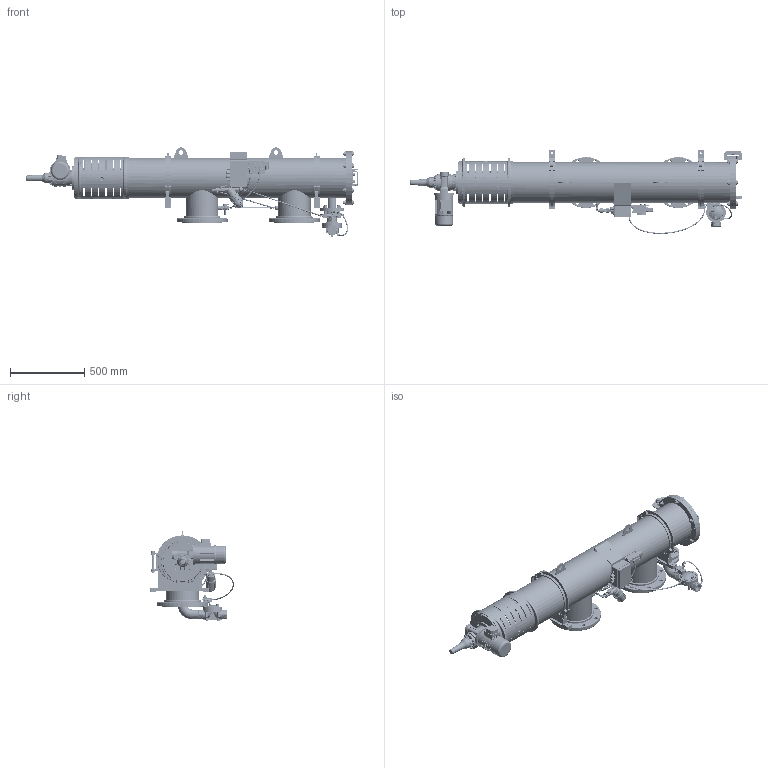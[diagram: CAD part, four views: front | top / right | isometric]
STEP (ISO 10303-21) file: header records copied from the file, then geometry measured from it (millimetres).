
FILE_DESCRIPTION (( 'STEP AP214' ), '1' );
FILE_NAME ('041045-000026WITH CLAMP.STEP', '2023-01-16T19:58:05', ( '' ), ( '' ), 'SwSTEP 2.0', 'SolidWorks 2019', '' );
FILE_SCHEMA (( 'AUTOMOTIVE_DESIGN' ));
Length unit declared in the file: millimetre
Products named in the file (1): 041045-000026WITH CLAMP
Bounding box: 2232.82 x 562.97 x 600.36 mm (x, y, z)
Volume: 27419390.5 mm3; surface area: 7390724 mm2
Topology: 251 solids, 256 shells, 16744 faces, 40607 edges, 24595 vertices
Faces by surface type: plane 7561, bspline 3182, cylinder 2952, torus 1377, cone 1310, sphere 362
Full cylindrical faces by diameter (mm): 1.2 x10, 2 x2, 2.381 x2, 3 x2, 3.141 x1, 3.5 x5, 3.9 x2, 4 x22, 4.166 x2, 4.2 x1, 4.3 x1, 4.4 x2, 4.7 x2, 4.75 x12, 4.762 x1, 4.763 x1, 4.773 x5, 4.917 x2, 5 x17, 5.7 x9, 6 x27, 6.2 x3, 6.5 x14, 6.6 x3, 6.858 x2, 7 x13, 7.137 x20, 7.187 x1, 7.5 x2, 7.95 x10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
Entity records: 868835 total; most frequent: CARTESIAN_POINT 331804, ORIENTED_EDGE 76114, DIRECTION 66100, EDGE_CURVE 38057, AXIS2_PLACEMENT_3D 25690, VERTEX_POINT 24079, EDGE_LOOP 19726, FACE_OUTER_BOUND 17810
